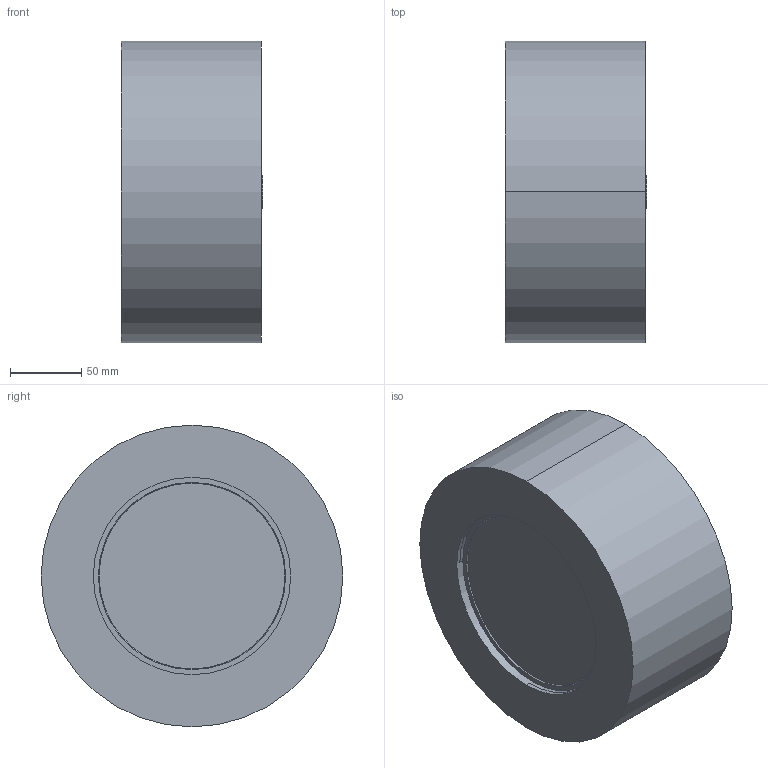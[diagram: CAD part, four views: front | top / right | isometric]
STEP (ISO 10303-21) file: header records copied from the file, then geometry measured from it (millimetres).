
FILE_DESCRIPTION((''),'2;1');
FILE_NAME('CV-16WS_SB_ASM','2026-05-07T',('user'),(''),'PRO/ENGINEER BY PARAMETRIC TECHNOLOGY CORPORATION, 2011220','PRO/ENGINEER BY PARAMETRIC TECHNOLOGY CORPORATION, 2011220','');
FILE_SCHEMA(('CONFIG_CONTROL_DESIGN'));
Length unit declared in the file: millimetre
Products named in the file (5): H71W_KORPUS; H71W_DISK; H71W_KORPUS_2; H71W_PRUZINA; CV-16WS_SB_ASM
Assembly tree (4 placements, depth 2):
  CV-16WS_SB_ASM
    H71W_KORPUS
    H71W_DISK
    H71W_KORPUS_2
    H71W_PRUZINA
Bounding box: 99 x 211 x 211 mm (x, y, z)
Volume: 667962.3 mm3; surface area: 289476.6 mm2
Topology: 4 solids, 6 shells, 73 faces, 172 edges, 114 vertices
Faces by surface type: cylinder 40, plane 21, bspline 8, cone 4
Entity records: 6141 total; most frequent: CARTESIAN_POINT 4264, DIRECTION 400, ORIENTED_EDGE 336, EDGE_CURVE 172, AXIS2_PLACEMENT_3D 168, VERTEX_POINT 114, EDGE_LOOP 90, CIRCLE 90
